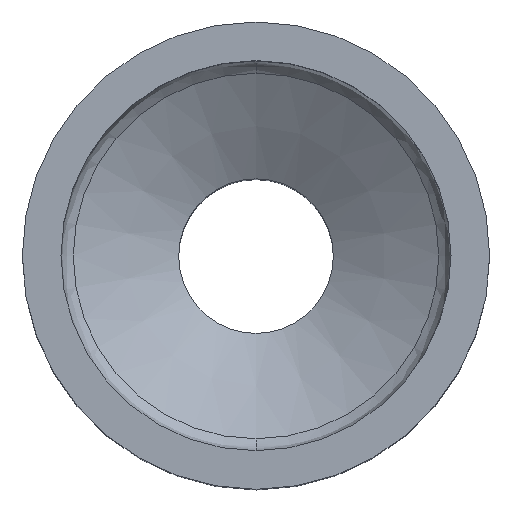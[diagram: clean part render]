
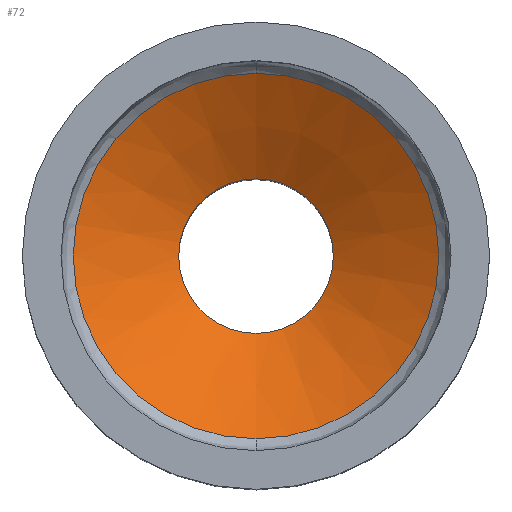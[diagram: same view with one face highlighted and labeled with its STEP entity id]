
A CAD part, top view. The second image highlights one B-rep face of the part: STEP entity #72.
In plain terms, the highlighted conical face has half-angle 60 degrees and reference radius 3.15 mm.
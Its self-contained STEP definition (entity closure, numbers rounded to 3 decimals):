
#7 = CONICAL_SURFACE ( 'NONE', #202, 3.15, 1.047 ) ;
#14 = CIRCLE ( 'NONE', #239, 7.45 ) ;
#15 = CIRCLE ( 'NONE', #240, 7.45 ) ;
#17 = CIRCLE ( 'NONE', #242, 3.15 ) ;
#51 = EDGE_CURVE ( 'NONE', #469, #469, #17, .T. ) ;
#53 = EDGE_CURVE ( 'NONE', #327, #324, #15, .T. ) ;
#54 = EDGE_CURVE ( 'NONE', #324, #327, #14, .T. ) ;
#72 = ADVANCED_FACE ( 'NONE', ( #211, #204 ), #7, .F. ) ;
#143 = CARTESIAN_POINT ( 'NONE',  ( 0., 0., -10.849 ) ) ;
#144 = DIRECTION ( 'NONE',  ( 0., 0., -1. ) ) ;
#145 = DIRECTION ( 'NONE',  ( 0., 1., 0. ) ) ;
#149 = CARTESIAN_POINT ( 'NONE',  ( 0., 0., -8.366 ) ) ;
#150 = DIRECTION ( 'NONE',  ( 0., 0., 1. ) ) ;
#151 = DIRECTION ( 'NONE',  ( 1., 0., 0. ) ) ;
#152 = CARTESIAN_POINT ( 'NONE',  ( 0., 0., -8.366 ) ) ;
#153 = DIRECTION ( 'NONE',  ( 0., 0., 1. ) ) ;
#154 = DIRECTION ( 'NONE',  ( 1., 0., 0. ) ) ;
#202 = AXIS2_PLACEMENT_3D ( 'NONE', #417, #418, #419 ) ;
#204 = FACE_BOUND ( 'NONE', #366, .T. ) ;
#211 = FACE_OUTER_BOUND ( 'NONE', #365, .T. ) ;
#239 = AXIS2_PLACEMENT_3D ( 'NONE', #152, #153, #154 ) ;
#240 = AXIS2_PLACEMENT_3D ( 'NONE', #149, #150, #151 ) ;
#242 = AXIS2_PLACEMENT_3D ( 'NONE', #143, #144, #145 ) ;
#324 = VERTEX_POINT ( 'NONE', #437 ) ;
#327 = VERTEX_POINT ( 'NONE', #440 ) ;
#365 = EDGE_LOOP ( 'NONE', ( #394, #391 ) ) ;
#366 = EDGE_LOOP ( 'NONE', ( #389 ) ) ;
#389 = ORIENTED_EDGE ( 'NONE', *, *, #51, .T. ) ;
#391 = ORIENTED_EDGE ( 'NONE', *, *, #53, .T. ) ;
#394 = ORIENTED_EDGE ( 'NONE', *, *, #54, .T. ) ;
#417 = CARTESIAN_POINT ( 'NONE',  ( 0., 0., -10.849 ) ) ;
#418 = DIRECTION ( 'NONE',  ( 0., 0., 1. ) ) ;
#419 = DIRECTION ( 'NONE',  ( 1., 0., 0. ) ) ;
#437 = CARTESIAN_POINT ( 'NONE',  ( 0., 7.45, -8.366 ) ) ;
#440 = CARTESIAN_POINT ( 'NONE',  ( 0., -7.45, -8.366 ) ) ;
#469 = VERTEX_POINT ( 'NONE', #470 ) ;
#470 = CARTESIAN_POINT ( 'NONE',  ( 0., 3.15, -10.849 ) ) ;
